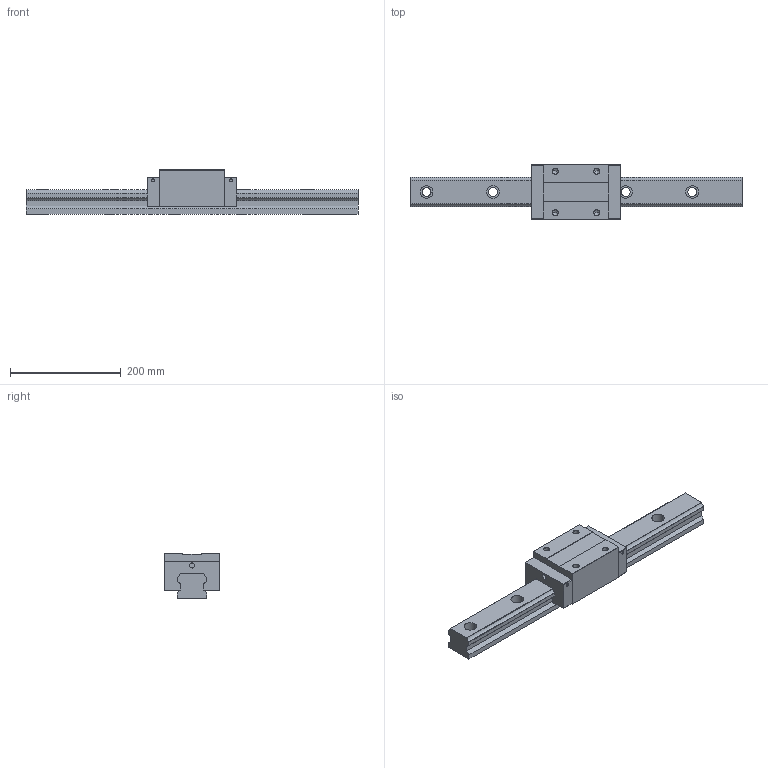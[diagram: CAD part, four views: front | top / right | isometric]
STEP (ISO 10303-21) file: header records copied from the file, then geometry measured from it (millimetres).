
FILE_DESCRIPTION (( 'STEP AP203' ), '1' );
FILE_NAME ('TRH55VL-XN.STEP', '2024-05-17T08:42:52', ( '' ), ( '' ), 'SwSTEP 2.0', 'SolidWorks 2022', '' );
FILE_SCHEMA (( 'CONFIG_CONTROL_DESIGN' ));
Length unit declared in the file: millimetre
Products named in the file (1): TRH55VL-XN
Bounding box: 600 x 100 x 80 mm (x, y, z)
Volume: 1964791.6 mm3; surface area: 213596.3 mm2
Topology: 2 solids, 2 shells, 175 faces, 460 edges, 296 vertices
Faces by surface type: plane 83, cylinder 76, cone 16
Entity records: 5453 total; most frequent: DIRECTION 964, CARTESIAN_POINT 924, ORIENTED_EDGE 904, EDGE_CURVE 452, AXIS2_PLACEMENT_3D 336, VERTEX_POINT 296, VECTOR 292, LINE 292
